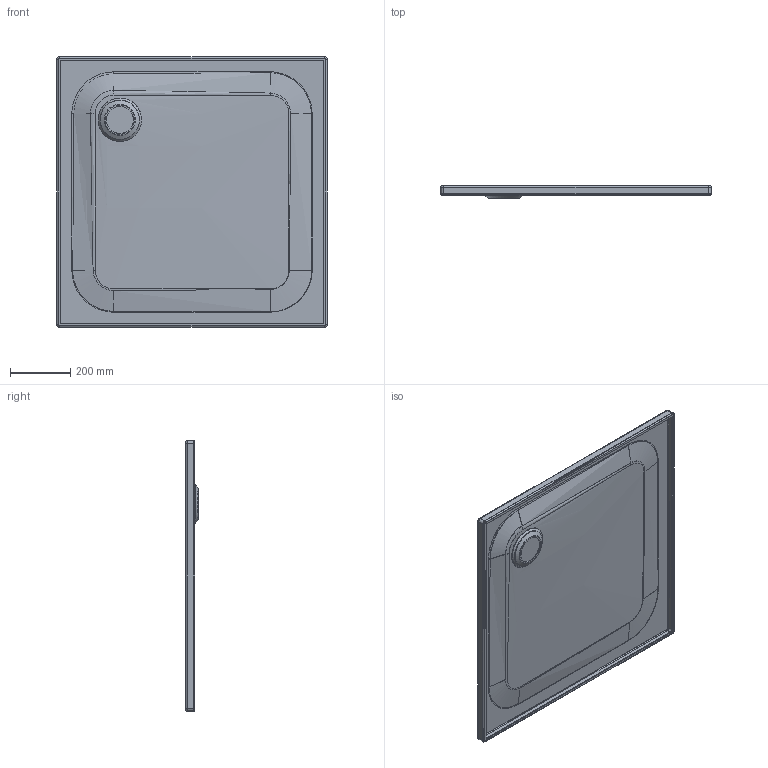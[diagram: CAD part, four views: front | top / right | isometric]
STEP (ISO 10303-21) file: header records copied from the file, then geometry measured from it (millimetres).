
FILE_DESCRIPTION((' '),'2;1');
FILE_NAME( '19492951bf6e90c3.stp', '2025-01-23T10:53:53', (' '), ('--- Datakit www.datakit.com---'), ' Datakit CrossCadWare V2022.3 Jun 15 2022', 'DATAKIT 2025 (c)', ' ');
FILE_SCHEMA(('CONFIG_CONTROL_DESIGN'));
Length unit declared in the file: millimetre
Products named in the file (1): 19492910074d49c3
Bounding box: 899 x 41.1 x 899 mm (x, y, z)
Volume: 2427481.9 mm3; surface area: 1891057.9 mm2
Topology: 2 solids, 2 shells, 134 faces, 294 edges, 171 vertices
Faces by surface type: bspline 41, cylinder 29, torus 28, plane 21, offset 9, cone 4, sphere 2
Full cylindrical faces by diameter (mm): 90 x1, 103.75 x1, 105 x1, 108.7 x1, 114.5 x1
Entity records: 44536 total; most frequent: CARTESIAN_POINT 42014, ORIENTED_EDGE 528, DIRECTION 424, EDGE_CURVE 264, AXIS2_PLACEMENT_3D 178, EDGE_LOOP 166, VERTEX_POINT 164, FACE_OUTER_BOUND 134
